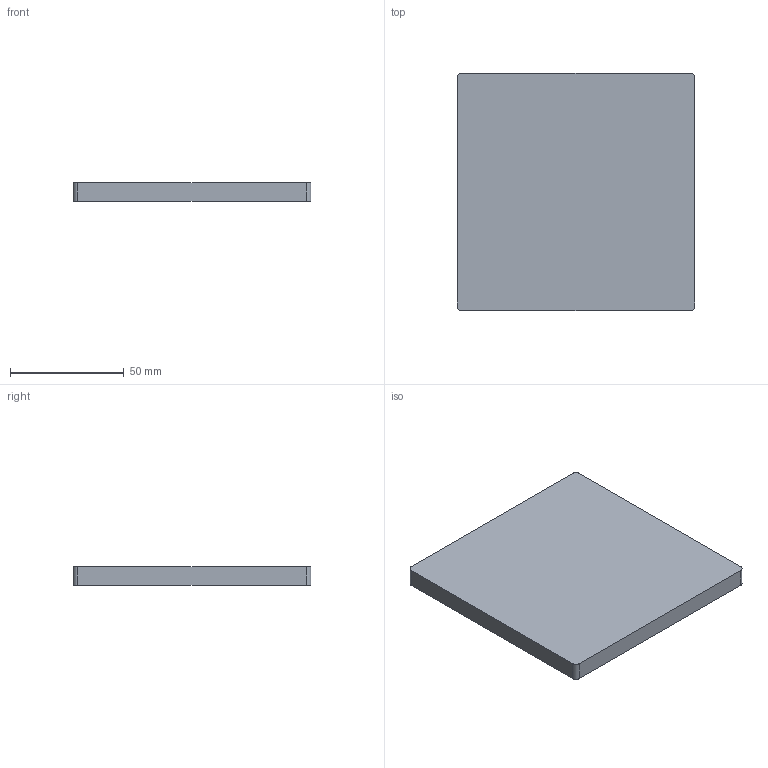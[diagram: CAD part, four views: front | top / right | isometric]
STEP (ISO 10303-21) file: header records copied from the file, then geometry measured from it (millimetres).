
FILE_DESCRIPTION (( 'STEP AP214' ), '1' );
FILE_NAME ('3561000521~cat.STEP', '2025-04-29T14:38:16', ( '' ), ( '' ), 'SwSTEP 2.0', 'SolidWorks 2025', '' );
FILE_SCHEMA (( 'AUTOMOTIVE_DESIGN' ));
Length unit declared in the file: millimetre
Products named in the file (1): 3561000521~cat
Bounding box: 104.5 x 104.5 x 8 mm (x, y, z)
Volume: 87331.7 mm3; surface area: 25148.1 mm2
Topology: 1 solids, 1 shells, 10 faces, 24 edges, 16 vertices
Faces by surface type: plane 6, cylinder 4
Entity records: 319 total; most frequent: DIRECTION 54, CARTESIAN_POINT 51, ORIENTED_EDGE 48, EDGE_CURVE 24, AXIS2_PLACEMENT_3D 19, VECTOR 16, LINE 16, VERTEX_POINT 16
